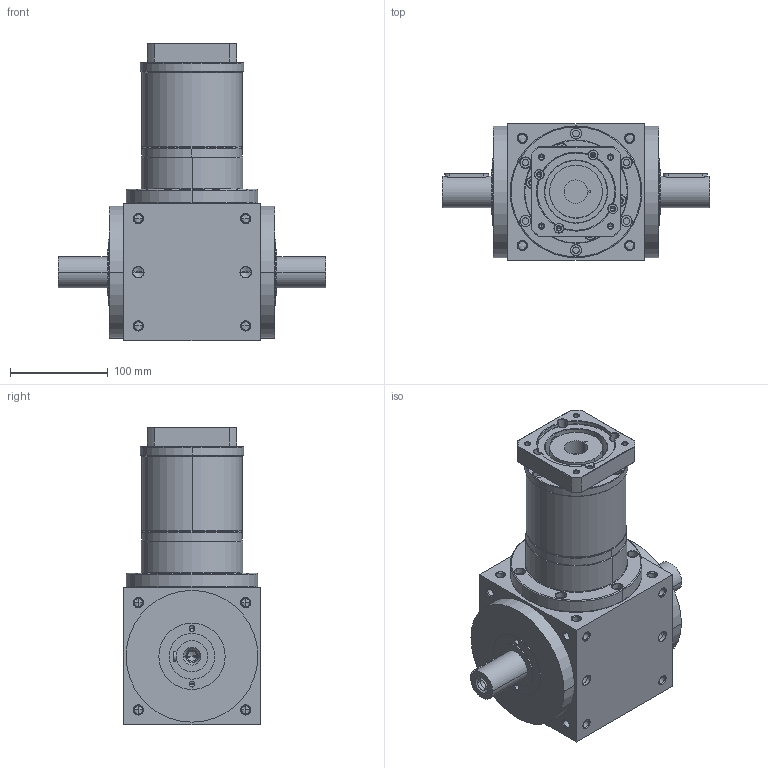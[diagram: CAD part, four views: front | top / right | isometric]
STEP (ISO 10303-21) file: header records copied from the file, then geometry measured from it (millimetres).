
FILE_DESCRIPTION((''),'2;1');
FILE_NAME('AT140FL2-P0405300303_ASM','2009-01-15T',('d00176'),(''),'PRO/ENGINEER BY PARAMETRIC TECHNOLOGY CORPORATION, 2006170','PRO/ENGINEER BY PARAMETRIC TECHNOLOGY CORPORATION, 2006170','');
FILE_SCHEMA(('CONFIG_CONTROL_DESIGN'));
Length unit declared in the file: millimetre
Products named in the file (5): ATFL-HOUSING-2-6; P1801600002; P0226600001; P0405300303; AT140FL2-P0405300303_ASM
Assembly tree (4 placements, depth 2):
  AT140FL2-P0405300303_ASM
    ATFL-HOUSING-2-6
    P1801600002
    P0226600001
    P0405300303
Bounding box: 274 x 140 x 304.5 mm (x, y, z)
Volume: 4251506.1 mm3; surface area: 362175.8 mm2
Topology: 4 solids, 44 shells, 843 faces, 2078 edges, 1230 vertices
Faces by surface type: cylinder 370, cone 284, plane 123, torus 50, bspline 16
Entity records: 25884 total; most frequent: CARTESIAN_POINT 6009, DIRECTION 4436, ORIENTED_EDGE 3804, EDGE_CURVE 1982, AXIS2_PLACEMENT_3D 1850, VERTEX_POINT 1230, CIRCLE 1006, EDGE_LOOP 998
